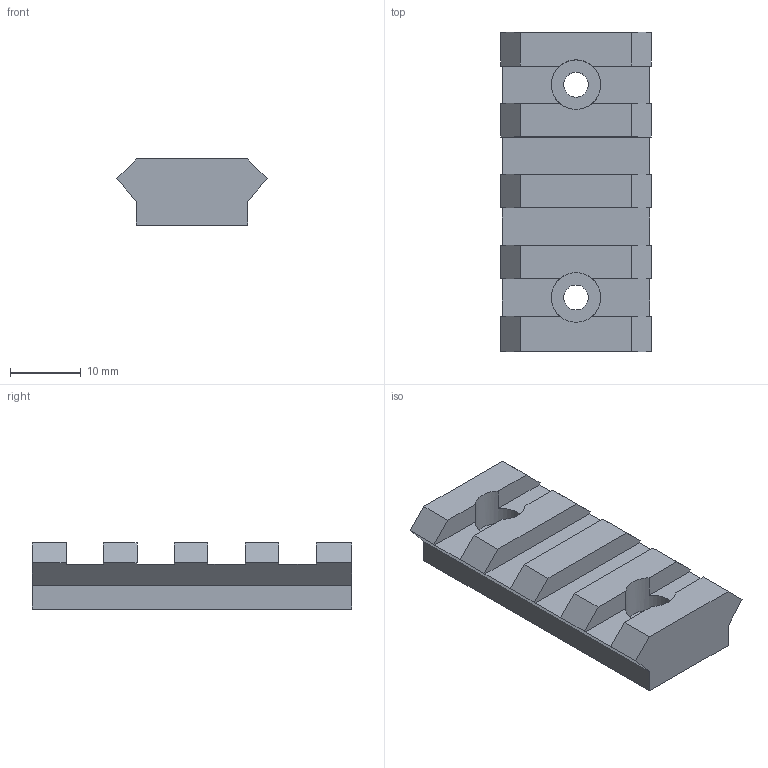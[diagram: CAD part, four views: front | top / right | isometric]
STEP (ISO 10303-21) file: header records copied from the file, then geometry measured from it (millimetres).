
FILE_DESCRIPTION(('FreeCAD Model'),'2;1');
FILE_NAME('/home/grant/Documents/CAD Files/WIP folder/PBW Project Folder/V1.1 STL''s & Steps/Modular Rail V1.1.step','2020-07-30T16:42:49',('Author'), (''),'Open CASCADE STEP processor 7.3','FreeCAD','Unknown');
FILE_SCHEMA(('AUTOMOTIVE_DESIGN { 1 0 10303 214 1 1 1 1 }'));
Length unit declared in the file: millimetre
Products named in the file (1): Body
Bounding box: 21.2 x 45 x 9.32 mm (x, y, z)
Volume: 5839.5 mm3; surface area: 3309.9 mm2
Topology: 1 solids, 1 shells, 46 faces, 132 edges, 88 vertices
Faces by surface type: plane 42, cylinder 4
Full cylindrical faces by diameter (mm): 3.5 x2, 7 x2
Entity records: 3243 total; most frequent: CARTESIAN_POINT 543, DIRECTION 504, LINE 364, VECTOR 364, ORIENTED_EDGE 264, PCURVE 264, DEFINITIONAL_REPRESENTATION 264, EDGE_CURVE 132
